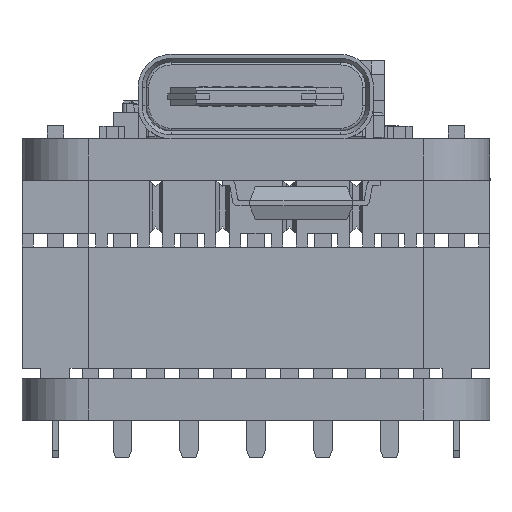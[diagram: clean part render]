
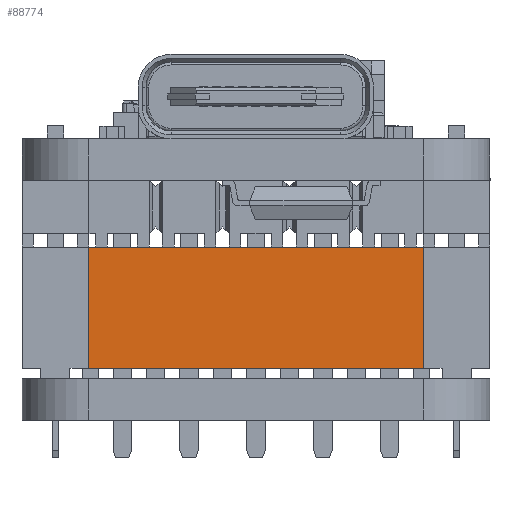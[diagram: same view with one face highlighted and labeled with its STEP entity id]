
A CAD part, front view. The second image highlights one B-rep face of the part: STEP entity #88774.
In plain terms, the highlighted planar face has unit normal (0, -1, 0) as drawn and (0, 0, -1) by its records, which use the part's own axes.
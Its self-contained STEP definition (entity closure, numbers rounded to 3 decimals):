
#7439 = CARTESIAN_POINT ( 'NONE',  ( 6.6, 23.442, -1.27 ) ) ;
#8401 = EDGE_LOOP ( 'NONE', ( #85262, #36163, #57606, #53309 ) ) ;
#8455 = VERTEX_POINT ( 'NONE', #10824 ) ;
#8729 = LINE ( 'NONE', #53289, #61668 ) ;
#8874 = DIRECTION ( 'NONE',  ( -1., 0., 0. ) ) ;
#10824 = CARTESIAN_POINT ( 'NONE',  ( -6.6, 5., -1.27 ) ) ;
#11093 = DIRECTION ( 'NONE',  ( 1., 0., 0. ) ) ;
#15240 = VECTOR ( 'NONE', #8874, 1000. ) ;
#18425 = DIRECTION ( 'NONE',  ( 0., 0., 1. ) ) ;
#21665 = EDGE_CURVE ( 'NONE', #76976, #69764, #58108, .T. ) ;
#25004 = LINE ( 'NONE', #52810, #88309 ) ;
#28575 = VECTOR ( 'NONE', #88685, 1000. ) ;
#32290 = AXIS2_PLACEMENT_3D ( 'NONE', #32966, #18425, #11093 ) ;
#32619 = CARTESIAN_POINT ( 'NONE',  ( 6.6, 0.4, -1.27 ) ) ;
#32966 = CARTESIAN_POINT ( 'NONE',  ( 6.6, 23.442, -1.27 ) ) ;
#33352 = EDGE_CURVE ( 'NONE', #8455, #69764, #25004, .T. ) ;
#34076 = CARTESIAN_POINT ( 'NONE',  ( 6.6, 5., -1.27 ) ) ;
#36163 = ORIENTED_EDGE ( 'NONE', *, *, #47842, .T. ) ;
#39786 = PLANE ( 'NONE',  #32290 ) ;
#42344 = CARTESIAN_POINT ( 'NONE',  ( -6.6, 0.4, -1.27 ) ) ;
#47842 = EDGE_CURVE ( 'NONE', #58101, #76976, #69894, .T. ) ;
#52810 = CARTESIAN_POINT ( 'NONE',  ( -6.6, 23.442, -1.27 ) ) ;
#53289 = CARTESIAN_POINT ( 'NONE',  ( 6.6, 5., -1.27 ) ) ;
#53309 = ORIENTED_EDGE ( 'NONE', *, *, #33352, .F. ) ;
#57606 = ORIENTED_EDGE ( 'NONE', *, *, #21665, .T. ) ;
#58101 = VERTEX_POINT ( 'NONE', #34076 ) ;
#58108 = LINE ( 'NONE', #85036, #15240 ) ;
#61668 = VECTOR ( 'NONE', #64339, 1000. ) ;
#64339 = DIRECTION ( 'NONE',  ( -1., 0., 0. ) ) ;
#69764 = VERTEX_POINT ( 'NONE', #42344 ) ;
#69894 = LINE ( 'NONE', #7439, #28575 ) ;
#70851 = EDGE_CURVE ( 'NONE', #58101, #8455, #8729, .T. ) ;
#76976 = VERTEX_POINT ( 'NONE', #32619 ) ;
#80621 = DIRECTION ( 'NONE',  ( 0., -1., 0. ) ) ;
#85036 = CARTESIAN_POINT ( 'NONE',  ( 6.6, 0.4, -1.27 ) ) ;
#85262 = ORIENTED_EDGE ( 'NONE', *, *, #70851, .F. ) ;
#87728 = FACE_OUTER_BOUND ( 'NONE', #8401, .T. ) ;
#88309 = VECTOR ( 'NONE', #80621, 1000. ) ;
#88685 = DIRECTION ( 'NONE',  ( 0., -1., 0. ) ) ;
#88774 = ADVANCED_FACE ( 'NONE', ( #87728 ), #39786, .F. ) ;
